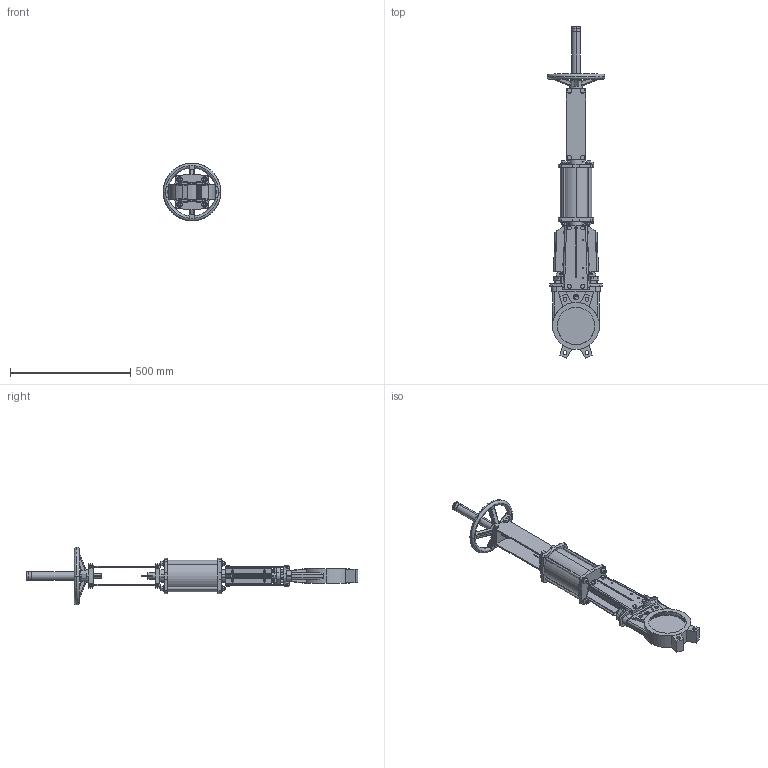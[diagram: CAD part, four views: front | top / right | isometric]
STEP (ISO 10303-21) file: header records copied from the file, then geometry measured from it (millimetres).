
FILE_DESCRIPTION (( 'STEP AP203' ), '1' );
FILE_NAME ('VG D DN150.STEP', '2010-01-28T02:15:54', ( 'farex' ), ( '' ), 'SwSTEP 2.0', 'SolidWorks 2009', '' );
FILE_SCHEMA (( 'CONFIG_CONTROL_DESIGN' ));
Length unit declared in the file: millimetre
Products named in the file (1): VG D DN150
Bounding box: 240 x 1382.72 x 240 mm (x, y, z)
Volume: 4615564.1 mm3; surface area: 1094504.5 mm2
Topology: 4 solids, 33 shells, 1358 faces, 3420 edges, 2223 vertices
Faces by surface type: plane 806, cylinder 394, cone 86, bspline 44, torus 28
Entity records: 44655 total; most frequent: CARTESIAN_POINT 11823, ORIENTED_EDGE 6840, DIRECTION 6665, EDGE_CURVE 3420, AXIS2_PLACEMENT_3D 2271, VERTEX_POINT 2223, VECTOR 2123, LINE 2123
